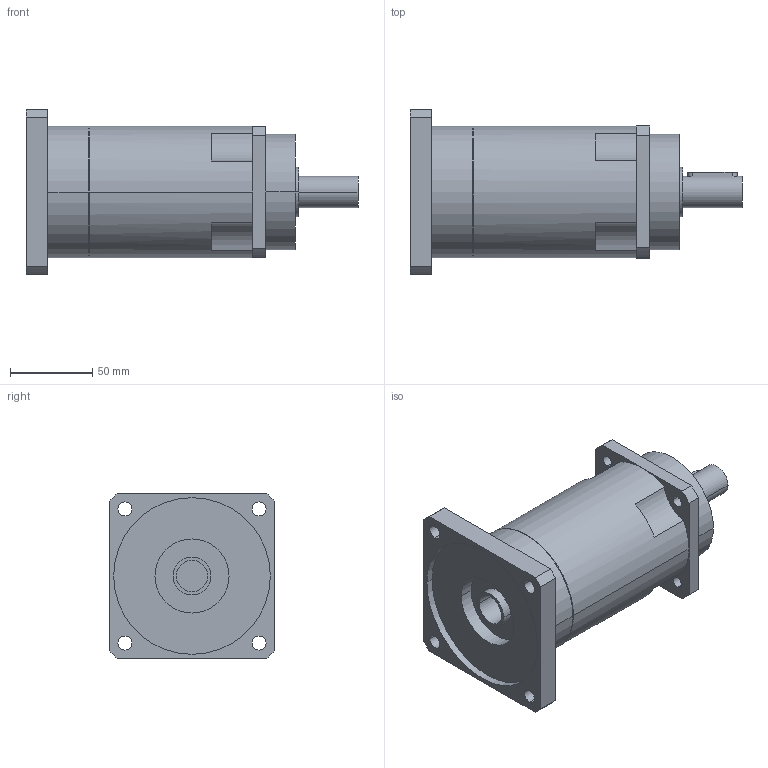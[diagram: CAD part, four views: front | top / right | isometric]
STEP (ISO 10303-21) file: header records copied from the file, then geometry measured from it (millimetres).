
FILE_DESCRIPTION(('CoCreate Modeling STEP Export'),'2;1');
FILE_NAME('GPR100_ig-48-64-80-100-120-144-180-216_19_B5_19_P07.stp','2014-08-26T11:56:48',(''),(''),'CoCreate Modeling STEP processor for AP214 (Solid Model)','CoCreate Modeling 16.00C 25-Feb-2009 (C) Parametric Technology GmbH','');
FILE_SCHEMA(('AUTOMOTIVE_DESIGN { 1 0 10303 214 1 1 1 1 }'));
Length unit declared in the file: millimetre
Products named in the file (2): GPR100_ig-48-64-80-100-120-144-180-216_19_B5_19_P07
Assembly tree (1 placements, depth 2):
  GPR100_ig-48-64-80-100-120-144-180-216_19_B5_19_P07
    GPR100_ig-48-64-80-100-120-144-180-216_19_B5_19_P07
Bounding box: 201.4 x 100 x 100 mm (x, y, z)
Volume: 820821.1 mm3; surface area: 75413.2 mm2
Topology: 1 solids, 1 shells, 86 faces, 242 edges, 166 vertices
Faces by surface type: cylinder 50, plane 30, cone 6
Entity records: 2552 total; most frequent: ORIENTED_EDGE 480, CARTESIAN_POINT 465, DIRECTION 376, EDGE_CURVE 240, VERTEX_POINT 166, AXIS2_PLACEMENT_3D 141, EDGE_LOOP 112, VECTOR 94
